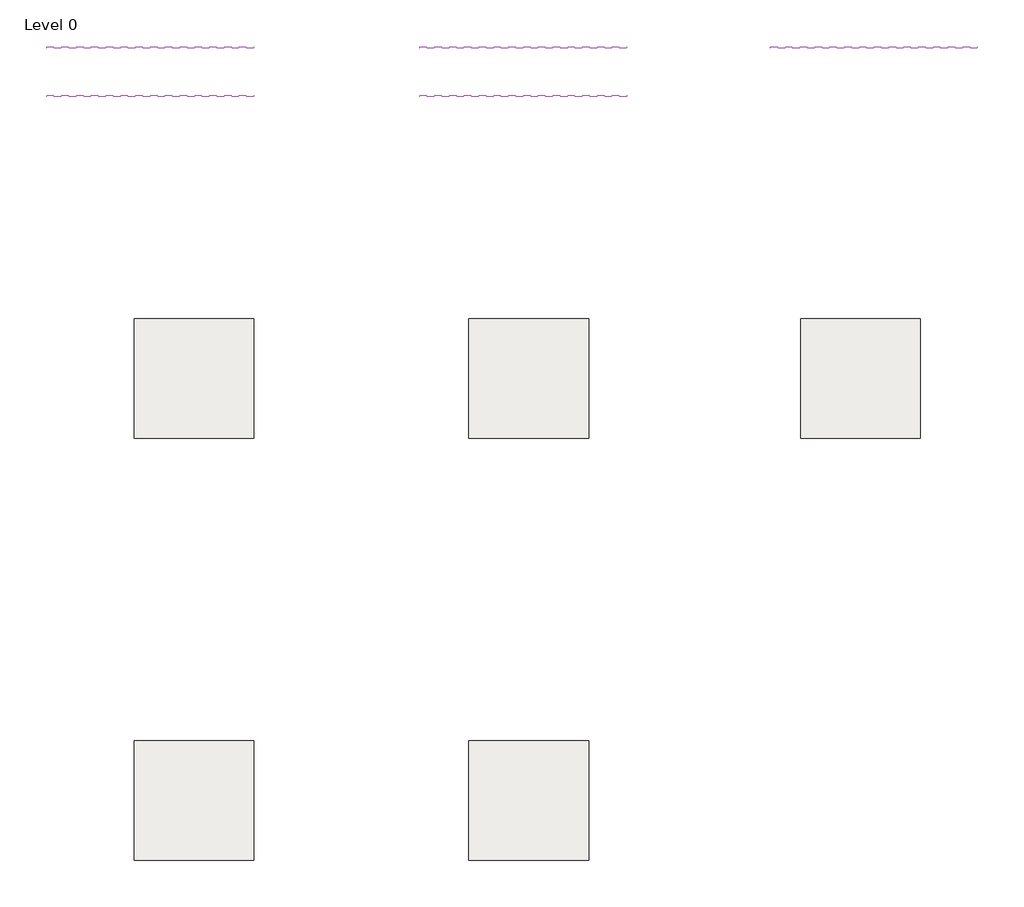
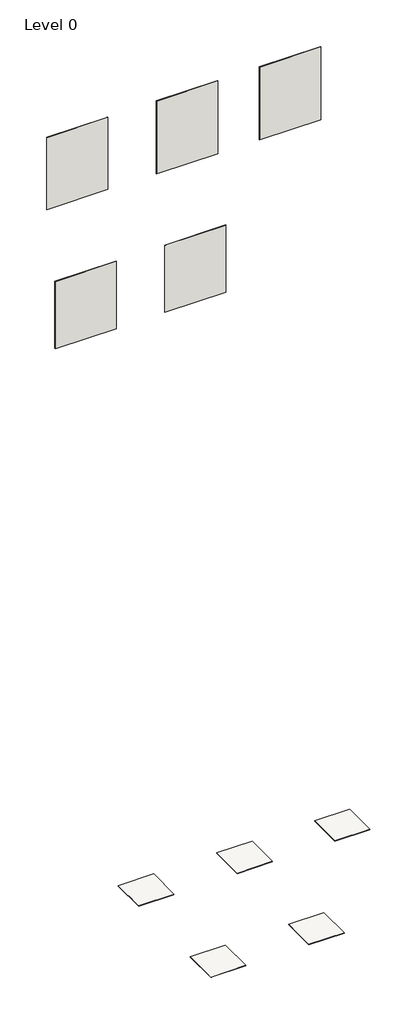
# One storey: 5 slabs, 5 walls.
"""IFC4 building model written with IfcOpenShell, lengths in millimetres."""

from ifc_helpers import new_model, si_unit, frame, origin, place, context, project, spatial, polyline, outline, extrude, element, save

model = new_model("IFC4")

# Units and contexts
model_context = context("Model", 3, world=origin())
ifc_project = project(units=[si_unit("LENGTHUNIT", "METRE", prefix="MILLI")], contexts=[model_context])

# Site, building, storey
site = spatial("IfcSite", under=ifc_project)
building = spatial("IfcBuilding", under=site)
storey = spatial("IfcBuildingStorey", under=building, Name="Level 0", Elevation=0.0)

# Slabs
placement = place(None, origin())
element("IfcSlab", 1, ObjectType="Floor_Tiles_Refin-Mansion-Lounge-75x75 LI74", at=placement, inside=storey, context=model_context, shape_type="SweptSolid", body=[
    extrude(outline(polyline([(9317.3924055, 3789.4623743), (9317.3924055, 3039.4623743), (8567.3924055, 3039.4623743), (8567.3924055, 3789.4623743), (9317.3924055, 3789.4623743)])), frame((0.0, 0.0, -10.0), z_axis=(0.0, 0.0, 1.0), x_axis=(1.0, 0.0, 0.0)), (0.0, 0.0, 1.0), 10.0),
])
element("IfcSlab", 2, ObjectType="Floor_Tiles_Refin-Mansion-Hall-75x75 LI72", at=placement, inside=storey, context=model_context, shape_type="SweptSolid", body=[
    extrude(outline(polyline([(11397.3924055, 6438.4192064), (11397.3924055, 5688.4192064), (10647.3924055, 5688.4192064), (10647.3924055, 6438.4192064), (11397.3924055, 6438.4192064)])), frame((0.0, 0.0, -10.0), z_axis=(0.0, 0.0, 1.0), x_axis=(1.0, 0.0, 0.0)), (0.0, 0.0, 1.0), 10.0),
])
element("IfcSlab", 3, ObjectType="Floor_Tiles_Refin-Mansion-Arcade-75x75 LI70", at=placement, inside=storey, context=model_context, shape_type="SweptSolid", body=[
    extrude(outline(polyline([(7217.3924055, 6438.4192064), (7217.3924055, 5688.4192064), (6467.3924055, 5688.4192064), (6467.3924055, 6438.4192064), (7217.3924055, 6438.4192064)])), frame((0.0, 0.0, -10.0), z_axis=(0.0, 0.0, 1.0), x_axis=(1.0, 0.0, 0.0)), (0.0, 0.0, 1.0), 10.0),
])
element("IfcSlab", 4, ObjectType="Floor_Tiles_Refin-Mansion-Court-75x75 LI71", at=placement, inside=storey, context=model_context, shape_type="SweptSolid", body=[
    extrude(outline(polyline([(9317.3924055, 6438.4192064), (9317.3924055, 5688.4192064), (8567.3924055, 5688.4192064), (8567.3924055, 6438.4192064), (9317.3924055, 6438.4192064)])), frame((0.0, 0.0, -10.0), z_axis=(0.0, 0.0, 1.0), x_axis=(1.0, 0.0, 0.0)), (0.0, 0.0, 1.0), 10.0),
])
element("IfcSlab", 5, ObjectType="Floor_Tiles_Refin-Mansion-Library-75x75 LI73", at=placement, inside=storey, context=model_context, shape_type="SweptSolid", body=[
    extrude(outline(polyline([(7217.3924055, 3789.4623743), (7217.3924055, 3039.4623743), (6467.3924055, 3039.4623743), (6467.3924055, 3789.4623743), (7217.3924055, 3789.4623743)])), frame((0.0, 0.0, -10.0), z_axis=(0.0, 0.0, 1.0), x_axis=(1.0, 0.0, 0.0)), (0.0, 0.0, 1.0), 10.0),
])

# Walls
element("IfcWall", 6, ObjectType="Wall_Tiles_Refin-Mansion-Court-75x75 LI71", at=placement, inside=storey, context=model_context, shape_type="SweptSolid", body=[
    extrude(outline(polyline([(9557.3752062, 8132.3838631), (8257.3752062, 8132.3838631), (8257.3752062, 8142.3838631), (9557.3752062, 8142.3838631), (9557.3752062, 8132.3838631)])), frame((0.0, 0.0, 14387.6770443), z_axis=(0.0, 0.0, 1.0), x_axis=(1.0, 0.0, 0.0)), (0.0, 0.0, 1.0), 1641.7417352),
])
element("IfcWall", 7, ObjectType="Wall_Tiles_Refin-Mansion-Hall-75x75 LI72", at=placement, inside=storey, context=model_context, shape_type="SweptSolid", body=[
    extrude(outline(polyline([(11757.3752062, 8132.3838631), (10457.3752062, 8132.3838631), (10457.3752062, 8142.3838631), (11757.3752062, 8142.3838631), (11757.3752062, 8132.3838631)])), frame((0.0, 0.0, 14387.6770443), z_axis=(0.0, 0.0, 1.0), x_axis=(1.0, 0.0, 0.0)), (0.0, 0.0, 1.0), 1641.7417352),
])
element("IfcWall", 8, ObjectType="Wall_Tiles_Refin-Mansion-Arcade-75x75 LI70", at=placement, inside=storey, context=model_context, shape_type="SweptSolid", body=[
    extrude(outline(polyline([(7217.3752062, 8132.3838631), (5917.3752062, 8132.3838631), (5917.3752062, 8142.3838631), (7217.3752062, 8142.3838631), (7217.3752062, 8132.3838631)])), frame((0.0, 0.0, 14403.7267346), z_axis=(0.0, 0.0, 1.0), x_axis=(1.0, 0.0, 0.0)), (0.0, 0.0, 1.0), 1625.692045),
])
element("IfcWall", 9, ObjectType="Wall_Tiles_Refin-Mansion-Library-75x75 LI73", at=placement, inside=storey, context=model_context, shape_type="SweptSolid", body=[
    extrude(outline(polyline([(7217.3752062, 7827.3838631), (5917.3752062, 7827.3838631), (5917.3752062, 7837.3838631), (7217.3752062, 7837.3838631), (7217.3752062, 7827.3838631)])), frame((0.0, 0.0, 11452.5436262), z_axis=(0.0, 0.0, 1.0), x_axis=(1.0, 0.0, 0.0)), (0.0, 0.0, 1.0), 1513.1985566),
])
element("IfcWall", 10, ObjectType="Wall_Tiles_Refin-Mansion-Lounge-75x75 LI74", at=placement, inside=storey, context=model_context, shape_type="SweptSolid", body=[
    extrude(outline(polyline([(9557.3752062, 7827.3838631), (8257.3752062, 7827.3838631), (8257.3752062, 7837.3838631), (9557.3752062, 7837.3838631), (9557.3752062, 7827.3838631)])), frame((0.0, 0.0, 11452.5436262), z_axis=(0.0, 0.0, 1.0), x_axis=(1.0, 0.0, 0.0)), (0.0, 0.0, 1.0), 1513.1985566),
])

save(model, "model.ifc")
